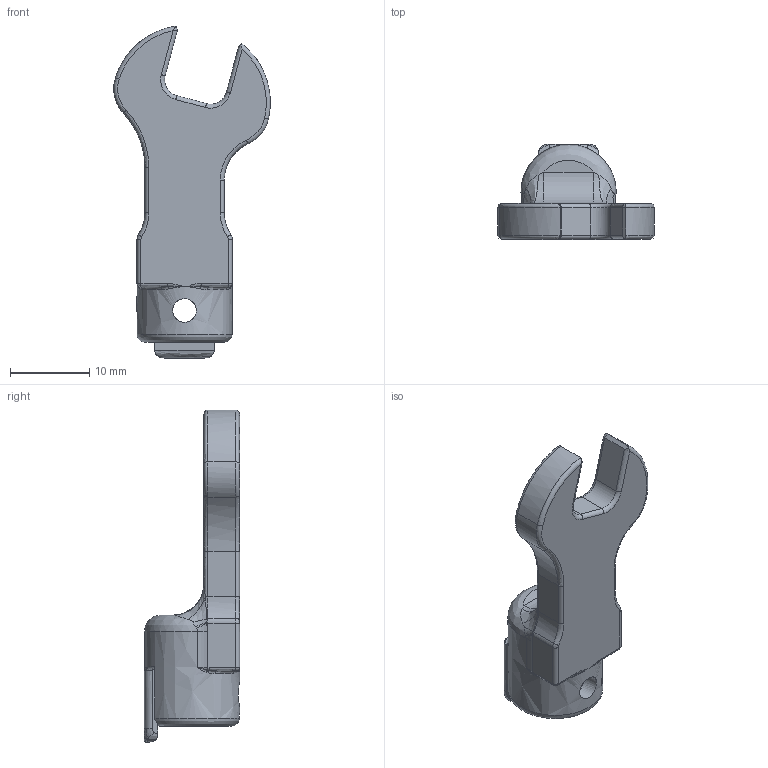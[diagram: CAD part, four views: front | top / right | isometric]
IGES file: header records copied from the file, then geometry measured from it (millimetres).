
Global section: file name: SH8DX8; native system: Autodesk Inventor 2016; preprocessor: unknown; author: Q600; date: 20151029.194339; units: millimetre
Bounding box: 19.74 x 12 x 41.88 mm (x, y, z)
Volume: 2441.8 mm3; surface area: 1924.4 mm2
Topology: 1 solids, 1 shells, 148 faces, 365 edges, 210 vertices
Faces by surface type: bspline 148
